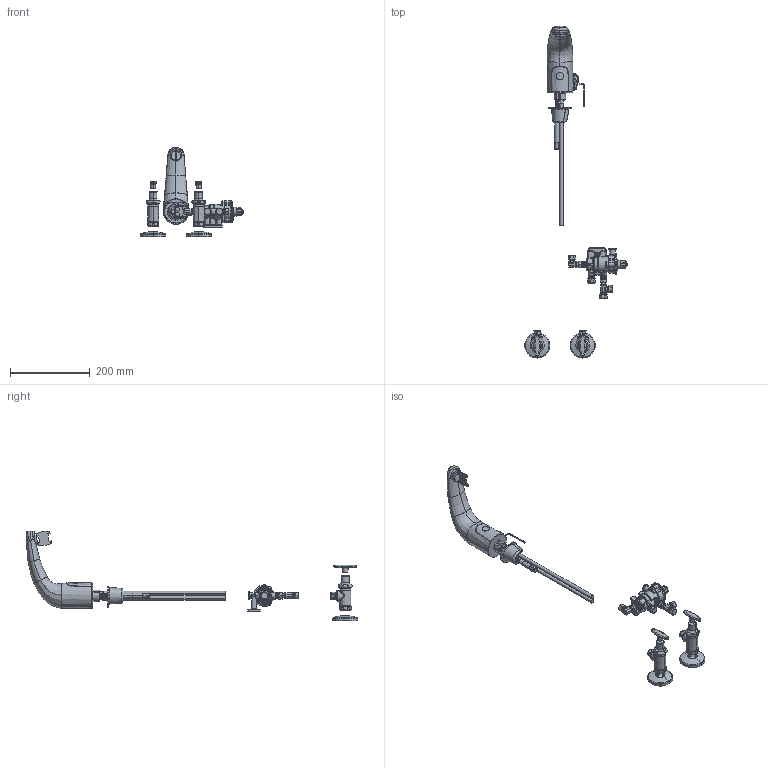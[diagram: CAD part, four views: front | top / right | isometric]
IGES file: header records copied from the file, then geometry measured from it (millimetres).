
Start section:  PTC IGES file: 116-808-ab-1t_REV062922.igs
Global section: file name: 116-808-ab-1t_REV062922.igs; native system: Creo Parametric by PTC Inc.; preprocessor: 2021184; author: rodjo; organization: Unknown; date: 20220629.154653; units: inch
Bounding box: 258.48 x 833.86 x 225.69 mm (x, y, z)
Surface area: 195628.4 mm2 (no closed solid volume)
Topology: 0 solids, 0 shells, 1663 faces, 14364 edges, 19713 vertices
Faces by surface type: revolution 905, bspline 758
